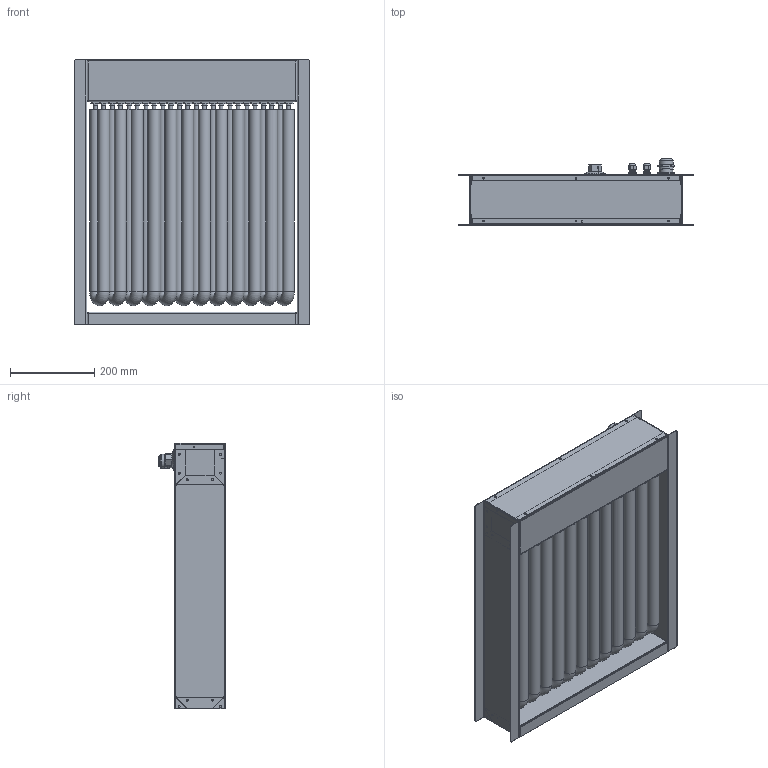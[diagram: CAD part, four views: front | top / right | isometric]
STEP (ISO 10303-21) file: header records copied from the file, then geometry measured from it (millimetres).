
FILE_DESCRIPTION(/* description */ (''),/* implementation_level */ '2;1');
FILE_NAME(/* name */ 'L:\142xxx_HRR_Elektro-Lufterhitzer\142592\stp\142592_20190620.stp',/* time_stamp */ '2019-06-20T13:30:40+02:00',/* author */ ('CAD'),/* organization */ (''),/* preprocessor_version */ 'ST-DEVELOPER v16.1',/* originating_system */ 'Autodesk Inventor 2016',/* authorisation */ '');
FILE_SCHEMA (('CONFIG_CONTROL_DESIGN'));
Length unit declared in the file: centimetre
Products named in the file (1): 142592
Bounding box: 560 x 157.42 x 631.25 mm (x, y, z)
Volume: 8121745.1 mm3; surface area: 2221591.2 mm2
Topology: 16 solids, 45 shells, 1956 faces, 4347 edges, 2736 vertices
Faces by surface type: plane 1143, cylinder 461, cone 214, torus 93, bspline 45
Full cylindrical faces by diameter (mm): 3.242 x4, 4 x48, 4.2 x56, 6 x1, 6.5 x2, 7.3 x4, 7.5 x2, 7.7 x2, 8.2 x24, 8.5 x24, 8.7 x24, 10.128 x2, 11.5 x26, 12 x2, 12.2 x4, 14 x52, 15 x2, 18 x2, 19 x1, 19.5 x1, 21 x2, 21.2 x1, 28.5 x24, 30 x1, 31 x1, 32 x1, 32.2 x1, 33 x2, 50 x1
Entity records: 50798 total; most frequent: CARTESIAN_POINT 10177, DIRECTION 8185, ORIENTED_EDGE 7182, EDGE_CURVE 3591, AXIS2_PLACEMENT_3D 3110, EDGE_LOOP 2973, VERTEX_POINT 2604, LINE 1965
